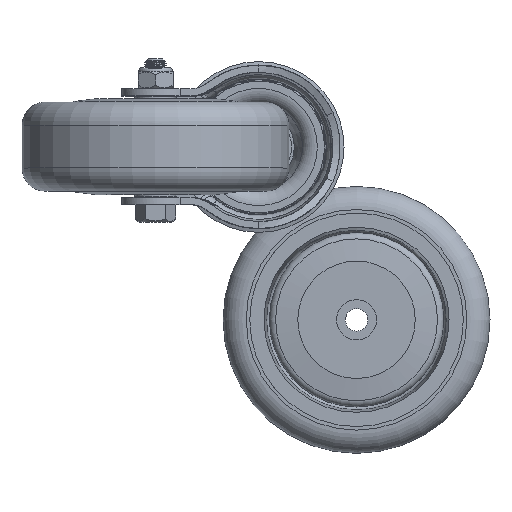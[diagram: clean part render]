
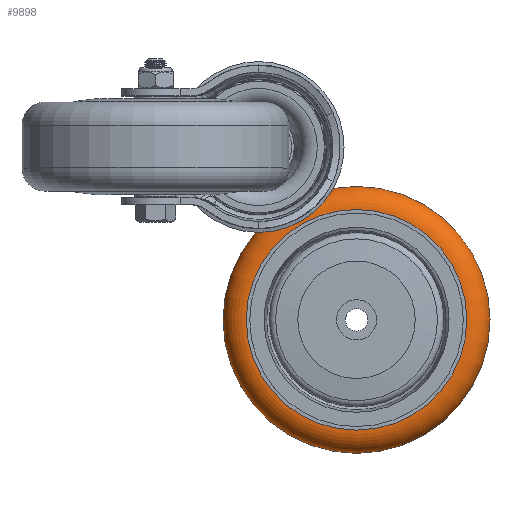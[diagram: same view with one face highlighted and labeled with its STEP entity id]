
A CAD part, top view. The second image highlights one B-rep face of the part: STEP entity #9898.
In plain terms, the highlighted toroidal (fillet/blend) face has major radius 31 mm and minor radius 6.5 mm.
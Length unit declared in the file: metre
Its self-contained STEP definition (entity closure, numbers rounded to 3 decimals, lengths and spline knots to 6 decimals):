
#9898=ADVANCED_FACE('',(#12358,#12359),#12360,.T.);
#12358=FACE_OUTER_BOUND('',#18371,.T.);
#12359=FACE_OUTER_BOUND('',#18372,.T.);
#12360=TOROIDAL_SURFACE('',#18373,0.031,0.0065);
#18371=EDGE_LOOP('',(#29159));
#18372=EDGE_LOOP('',(#29160));
#18373=AXIS2_PLACEMENT_3D('',#29161,#29162,#29163);
#29159=ORIENTED_EDGE('',*,*,#35473,.T.);
#29160=ORIENTED_EDGE('',*,*,#35474,.T.);
#29161=CARTESIAN_POINT('',(-0.006,0.0,0.0));
#29162=DIRECTION('',(1.0,0.0,-0.0));
#29163=DIRECTION('',(0.0,0.0,1.0));
#35473=EDGE_CURVE('',#46844,#46844,#46845,.T.);
#35474=EDGE_CURVE('',#46846,#46846,#46847,.T.);
#46844=VERTEX_POINT('',#67766);
#46845=CIRCLE('',#67767,0.0375);
#46846=VERTEX_POINT('',#67768);
#46847=CIRCLE('',#67769,0.031);
#67766=CARTESIAN_POINT('',(-0.006,0.0,-0.0375));
#67767=AXIS2_PLACEMENT_3D('',#71165,#71166,#71167);
#67768=CARTESIAN_POINT('',(-0.0125,0.0,-0.031));
#67769=AXIS2_PLACEMENT_3D('',#71168,#71169,#71170);
#71165=CARTESIAN_POINT('',(-0.006,0.0,0.0));
#71166=DIRECTION('',(-1.0,0.0,0.0));
#71167=DIRECTION('',(0.0,0.0,-1.0));
#71168=CARTESIAN_POINT('',(-0.0125,0.0,0.0));
#71169=DIRECTION('',(1.0,0.0,0.0));
#71170=DIRECTION('',(0.0,0.0,-1.0));
